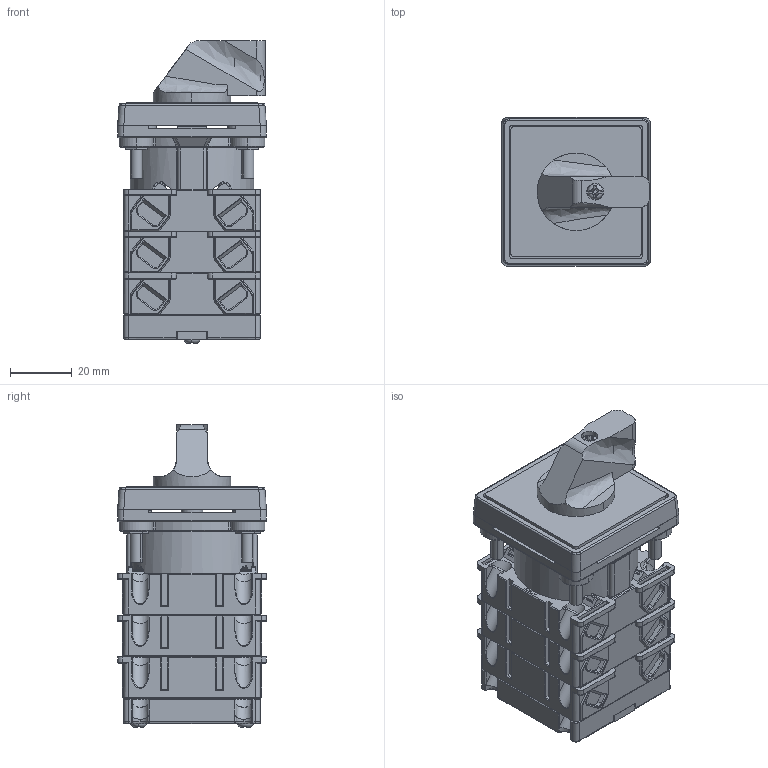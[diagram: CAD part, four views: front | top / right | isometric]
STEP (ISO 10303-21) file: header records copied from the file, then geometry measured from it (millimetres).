
FILE_DESCRIPTION (( 'STEP AP214' ), '1' );
FILE_NAME ('Ïåðåêëþ÷àòåëü 4G10-XXXX-U-R012,R014,S24 3ê.STEP', '2022-11-24T07:46:31', ( '' ), ( '' ), 'SwSTEP 2.0', 'SolidWorks 2018', '' );
FILE_SCHEMA (( 'AUTOMOTIVE_DESIGN' ));
Length unit declared in the file: millimetre
Products named in the file (1): Ïåðåêëþ÷àòåëü 4G10-XXXX-U-R012,R014,S24 3ê
Bounding box: 48 x 48 x 97.6 mm (x, y, z)
Volume: 127430.2 mm3; surface area: 65089.8 mm2
Topology: 29 solids, 53 shells, 4034 faces, 10407 edges, 6568 vertices
Faces by surface type: plane 2191, cylinder 1339, torus 212, cone 155, bspline 85, sphere 52
Entity records: 194231 total; most frequent: CARTESIAN_POINT 53001, ORIENTED_EDGE 20696, DIRECTION 19631, EDGE_CURVE 10348, LINE 6637, VECTOR 6637, VERTEX_POINT 6556, AXIS2_PLACEMENT_3D 6497
